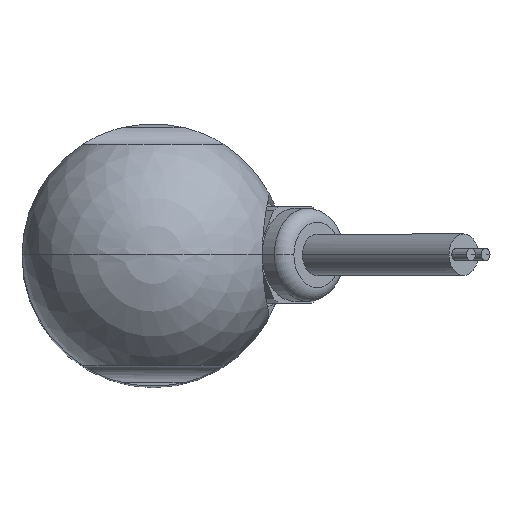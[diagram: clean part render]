
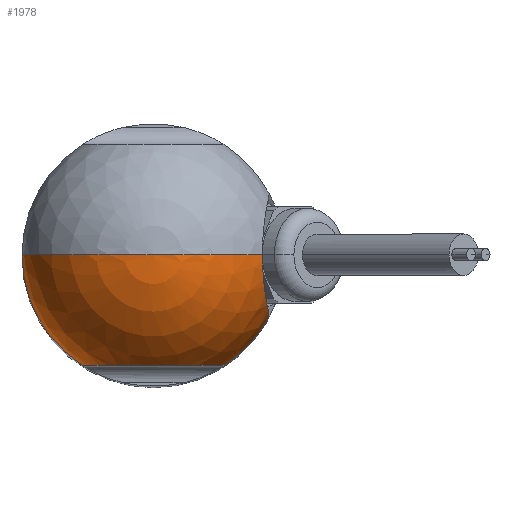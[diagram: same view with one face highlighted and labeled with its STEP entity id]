
A CAD part, top view. The second image highlights one B-rep face of the part: STEP entity #1978.
In plain terms, the highlighted spherical face has radius 19 mm.
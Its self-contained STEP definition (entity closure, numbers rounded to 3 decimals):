
#504=CARTESIAN_POINT('',(16.756,-8.957,
0.));
#505=CARTESIAN_POINT('',(16.778,-8.916,0.618));
#506=CARTESIAN_POINT('',(16.787,-8.773,1.825));
#507=CARTESIAN_POINT('',(16.717,-8.362,3.55));
#508=CARTESIAN_POINT('',(16.595,-7.77,5.108));
#509=CARTESIAN_POINT('',(16.447,-7.024,6.473));
#510=CARTESIAN_POINT('',(16.301,-6.198,7.577));
#511=CARTESIAN_POINT('',(16.173,-5.358,8.435));
#512=CARTESIAN_POINT('',(16.06,-4.477,9.137));
#513=CARTESIAN_POINT('',(15.957,-3.471,9.737));
#514=CARTESIAN_POINT('',(15.874,-2.361,10.195));
#515=CARTESIAN_POINT('',(15.821,-1.18,10.477));
#516=CARTESIAN_POINT('',(15.81,-0.393,10.538));
#517=CARTESIAN_POINT('',(15.81,0.,
10.538));
#519=CARTESIAN_POINT('',(0.,-16.,0.));
#520=DIRECTION('',(0.,1.,0.));
#521=DIRECTION('',(-1.,0.,0.));
#522=AXIS2_PLACEMENT_3D('',#519,#520,#521);
#524=CARTESIAN_POINT('',(0.,0.,0.));
#525=DIRECTION('',(0.,-1.,0.));
#526=DIRECTION('',(0.,0.,1.));
#527=AXIS2_PLACEMENT_3D('',#524,#525,#526);
#529=CARTESIAN_POINT('',(0.,0.,0.));
#530=DIRECTION('',(0.,1.,0.));
#531=DIRECTION('',(0.,0.,1.));
#532=AXIS2_PLACEMENT_3D('',#529,#530,#531);
#541=CARTESIAN_POINT('',(16.756,-8.957,
0.));
#561=CARTESIAN_POINT('',(0.,0.,0.));
#562=DIRECTION('',(0.,0.,-1.));
#563=DIRECTION('',(-0.539,-0.842,0.));
#564=AXIS2_PLACEMENT_3D('',#561,#562,#563);
#579=CARTESIAN_POINT('',(0.,0.,0.));
#580=DIRECTION('',(0.,0.,-1.));
#581=DIRECTION('',(0.882,-0.471,0.));
#582=AXIS2_PLACEMENT_3D('',#579,#580,#581);
#958=CARTESIAN_POINT('',(15.81,0.,
10.538));
#1063=CARTESIAN_POINT('',(0.,0.,19.));
#1064=CARTESIAN_POINT('',(-19.,0.,0.));
#1065=VERTEX_POINT('',#1063);
#1066=VERTEX_POINT('',#1064);
#1099=CARTESIAN_POINT('',(-10.247,-16.,0.));
#1100=CARTESIAN_POINT('',(10.247,-16.,0.));
#1101=VERTEX_POINT('',#1099);
#1102=VERTEX_POINT('',#1100);
#1170=VERTEX_POINT('',#958);
#1172=VERTEX_POINT('',#541);
#1960=CARTESIAN_POINT('',(0.,0.,0.));
#1961=DIRECTION('',(0.,0.,1.));
#1962=DIRECTION('',(-1.,0.,0.));
#1963=AXIS2_PLACEMENT_3D('',#1960,#1961,#1962);
#1964=SPHERICAL_SURFACE('',#1963,19.);
#1965=ORIENTED_EDGE('',*,*,#1949,.F.);
#1967=ORIENTED_EDGE('',*,*,#1966,.T.);
#1969=ORIENTED_EDGE('',*,*,#1968,.F.);
#1971=ORIENTED_EDGE('',*,*,#1970,.T.);
#1973=ORIENTED_EDGE('',*,*,#1972,.F.);
#1975=ORIENTED_EDGE('',*,*,#1974,.T.);
#1976=EDGE_LOOP('',(#1965,#1967,#1969,#1971,#1973,#1975));
#1977=FACE_OUTER_BOUND('',#1976,.F.);
#518=B_SPLINE_CURVE_WITH_KNOTS('',3,(#504,#505,#506,#507,#508,#509,#510,#511,
#512,#513,#514,#515,#516,#517),.UNSPECIFIED.,.F.,.F.,(4,1,1,1,1,1,1,1,1,1,1,4),(
0.,0.091,0.182,0.273,0.364,
0.455,0.545,0.636,0.727,
0.818,0.909,1.),.UNSPECIFIED.);
#523=CIRCLE('',#522,10.247);
#528=CIRCLE('',#527,19.);
#533=CIRCLE('',#532,19.);
#565=CIRCLE('',#564,19.);
#583=CIRCLE('',#582,19.);
#1949=EDGE_CURVE('',#1172,#1170,#518,.T.);
#1966=EDGE_CURVE('',#1172,#1102,#583,.T.);
#1968=EDGE_CURVE('',#1101,#1102,#523,.T.);
#1970=EDGE_CURVE('',#1101,#1066,#565,.T.);
#1972=EDGE_CURVE('',#1065,#1066,#528,.T.);
#1974=EDGE_CURVE('',#1065,#1170,#533,.T.);
#1978=ADVANCED_FACE('',(#1977),#1964,.T.);
